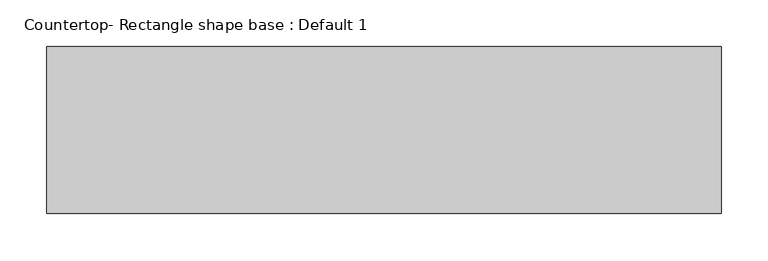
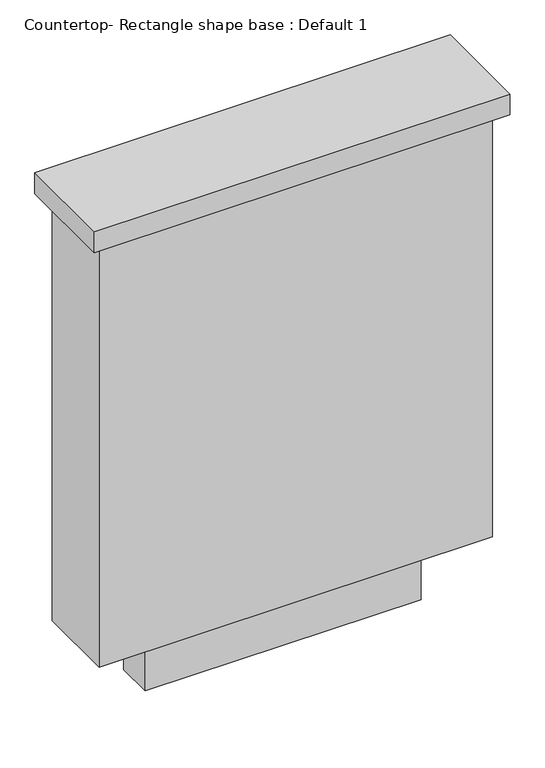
"""IFC4 building model written with IfcOpenShell, lengths in millimetres: proxy geometry, Countertop- Rectangle shape base : Default 1."""

from ifc_helpers import new_model, si_unit, frame, origin, origin_with_axes, place, context, project, spatial, polyline, outline, extrude, source, transform, mapped, element, save


def countertop_rectangle_shape_base_default_1_19555c43(model_context):
    return source(origin(), model_context, "Body", "SweptSolid", [
        extrude(outline(polyline([(403.225, 292.1), (403.225, 469.9), (1120.775, 469.9), (1120.775, 292.1), (403.225, 292.1)])), frame((0.0, 0.0, 876.3), z_axis=(0.0, 0.0, 1.0), x_axis=(1.0, 0.0, 0.0)), (0.0, 0.0, 1.0), 38.1),
        extrude(outline(polyline([(1101.725, 450.85), (1101.725, 311.15), (422.275, 311.15), (422.275, 450.85), (1101.725, 450.85)])), frame((0.0, 0.0, 101.6), z_axis=(0.0, 0.0, 1.0), x_axis=(1.0, 0.0, 0.0)), (0.0, 0.0, 1.0), 774.7),
        extrude(outline(polyline([(1000.125, 349.25), (523.875, 349.25), (523.875, 412.75), (1000.125, 412.75), (1000.125, 349.25)])), origin_with_axes(), (0.0, 0.0, 1.0), 101.6),
    ])


if __name__ == "__main__":
    model = new_model("IFC4")
    model_context = context("Model", 3, world=origin())
    ifc_project = project(units=[si_unit("LENGTHUNIT", "METRE", prefix="MILLI")], contexts=[model_context])
    site = spatial("IfcSite", under=ifc_project)
    building = spatial("IfcBuilding", under=site)
    placement = place(None, origin())
    countertop_rectangle_shape_base_default_1_shape = countertop_rectangle_shape_base_default_1_19555c43(model_context)
    element("IfcBuildingElementProxy", 1, Name="Countertop- Rectangle shape base : Default 1", ObjectType="Countertop- Rectangle shape base : Default 1", at=placement, inside=building, context=model_context, shape_type="MappedRepresentation", body=[
        mapped(countertop_rectangle_shape_base_default_1_shape, transform((0.0, 0.0, 0.0), x_axis=(1.0, 0.0, 0.0), y_axis=(0.0, 1.0, 0.0), z_axis=(0.0, 0.0, 1.0))),
    ])
    save(model, "model.ifc")
